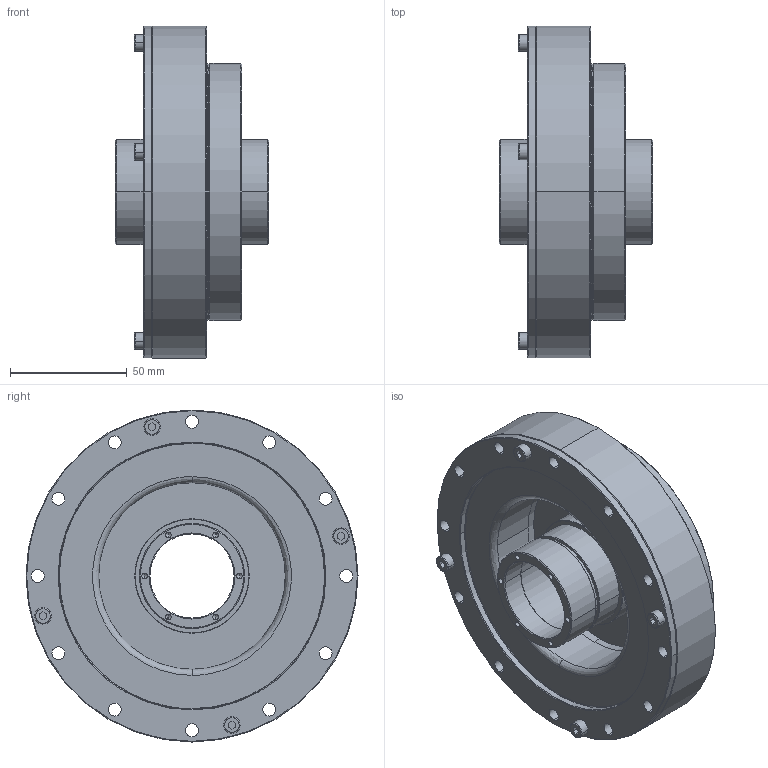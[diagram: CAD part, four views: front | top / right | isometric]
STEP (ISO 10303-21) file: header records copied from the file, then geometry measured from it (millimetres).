
FILE_DESCRIPTION(('STEP AP214'),'1');
FILE_NAME('cctmp_D8C4C937-EB35-432C-B97E-604618B0DD71_2025_03_06_11_21_27_0284_67012..stp','2025-03-06T10:21:27',('HIWIN GmbH'),('CADClick - www.CADClick.com'),'Spatial InterOp 3D',' ','unknown authorization');
FILE_SCHEMA(('AUTOMOTIVE_DESIGN'));
Length unit declared in the file: millimetre
Products named in the file (2): DSH-32-XX-PH_FILE; 2025_03_06_11_21_27_0284
Assembly tree (1 placements, depth 2):
  DSH-32-XX-PH_FILE
    2025_03_06_11_21_27_0284
Bounding box: 65.5 x 142 x 142 mm (x, y, z)
Volume: 406918.7 mm3; surface area: 83530.4 mm2
Topology: 1 solids, 1 shells, 396 faces, 982 edges, 612 vertices
Faces by surface type: cylinder 174, plane 102, cone 98, bspline 22
Entity records: 15558 total; most frequent: CARTESIAN_POINT 2842, DIRECTION 2144, ORIENTED_EDGE 1852, EDGE_CURVE 926, AXIS2_PLACEMENT_3D 864, VERTEX_POINT 612, EDGE_LOOP 502, CIRCLE 488
